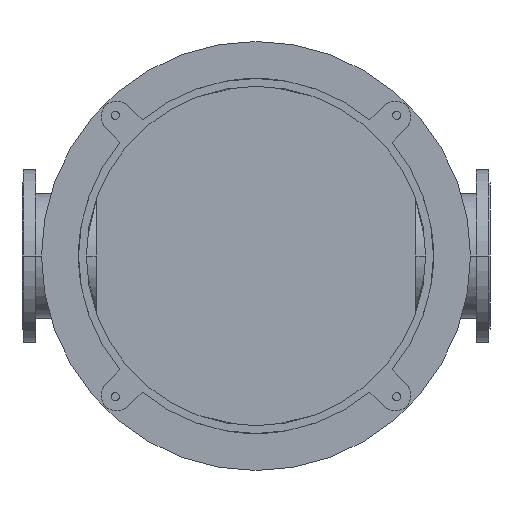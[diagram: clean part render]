
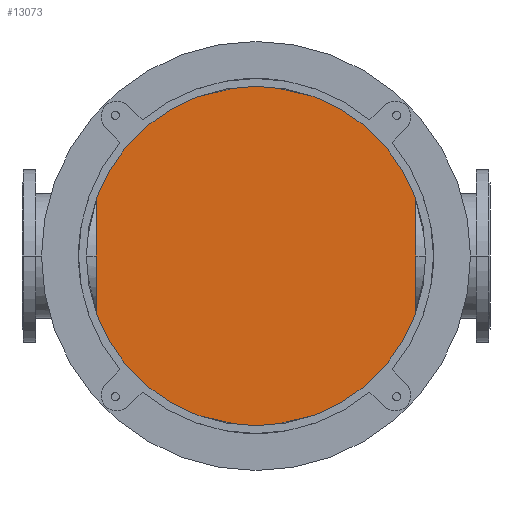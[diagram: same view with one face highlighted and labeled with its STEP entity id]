
A CAD part, front view. The second image highlights one B-rep face of the part: STEP entity #13073.
In plain terms, the highlighted planar face has unit normal (0, -1, 0).
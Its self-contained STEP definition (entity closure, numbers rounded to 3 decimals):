
#3560=CARTESIAN_POINT('',(0.,1000.,0.));
#3561=DIRECTION('',(0.,-1.,0.));
#3562=DIRECTION('',(0.,0.,-1.));
#3563=AXIS2_PLACEMENT_3D('',#3560,#3561,#3562);
#3685=CARTESIAN_POINT('',(0.,1000.,0.));
#3686=DIRECTION('',(0.,-1.,0.));
#3687=DIRECTION('',(0.,0.,1.));
#3688=AXIS2_PLACEMENT_3D('',#3685,#3686,#3687);
#7230=CARTESIAN_POINT('',(0.,1000.,450.));
#7231=CARTESIAN_POINT('',(0.,1000.,-450.));
#7232=VERTEX_POINT('',#7230);
#7233=VERTEX_POINT('',#7231);
#13064=CARTESIAN_POINT('',(0.,1000.,0.));
#13065=DIRECTION('',(0.,1.,0.));
#13066=DIRECTION('',(0.,0.,-1.));
#13067=AXIS2_PLACEMENT_3D('',#13064,#13065,#13066);
#13068=PLANE('',#13067);
#13069=ORIENTED_EDGE('',*,*,#13050,.F.);
#13070=ORIENTED_EDGE('',*,*,#12951,.F.);
#13071=EDGE_LOOP('',(#13069,#13070));
#13072=FACE_OUTER_BOUND('',#13071,.F.);
#13073=ADVANCED_FACE('',(#13072),#13068,.F.);
#3564=CIRCLE('',#3563,450.);
#3689=CIRCLE('',#3688,450.);
#12951=EDGE_CURVE('',#7233,#7232,#3564,.T.);
#13050=EDGE_CURVE('',#7232,#7233,#3689,.T.);
